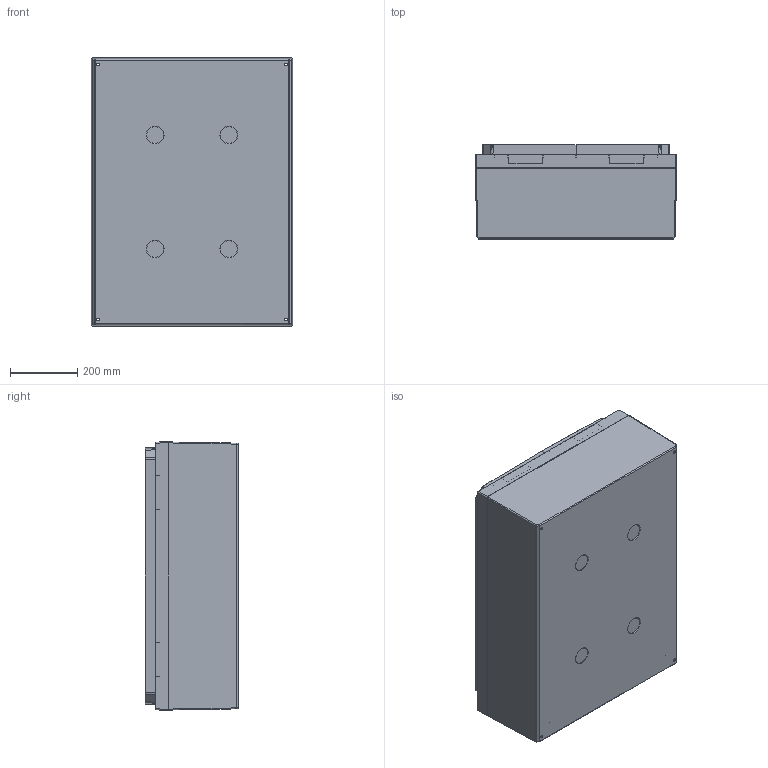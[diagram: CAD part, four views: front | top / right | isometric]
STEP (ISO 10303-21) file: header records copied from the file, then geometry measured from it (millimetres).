
FILE_DESCRIPTION (( 'STEP AP214' ), '1' );
FILE_NAME ('BXPFAGS800600300-P01', '2015-03-02T11:21:37', ( '' ), ( '' ), 'SwSTEP 2.0', 'SolidWorks 2014', '' );
FILE_SCHEMA (( 'AUTOMOTIVE_DESIGN' ));
Length unit declared in the file: millimetre
Products named in the file (3): BXPFAGS800600300-P01
Assembly tree (2 placements, depth 2):
  BXPFAGS800600300-P01
    BXPFAGS800600300-P01
    BXPFAGS800600300-P01
Bounding box: 600 x 280 x 800 mm (x, y, z)
Volume: 6518502.9 mm3; surface area: 3204871.3 mm2
Topology: 2 solids, 2 shells, 1483 faces, 3778 edges, 2496 vertices
Faces by surface type: plane 1081, cylinder 290, cone 80, bspline 20, torus 12
Entity records: 44862 total; most frequent: CARTESIAN_POINT 9146, ORIENTED_EDGE 7540, DIRECTION 6982, EDGE_CURVE 3770, VECTOR 2926, LINE 2926, VERTEX_POINT 2496, AXIS2_PLACEMENT_3D 2028
